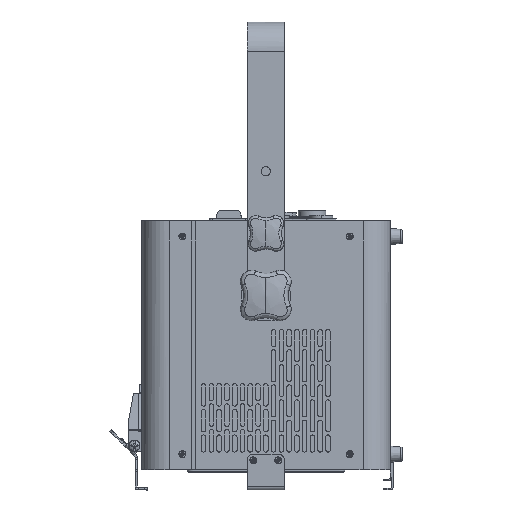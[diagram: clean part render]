
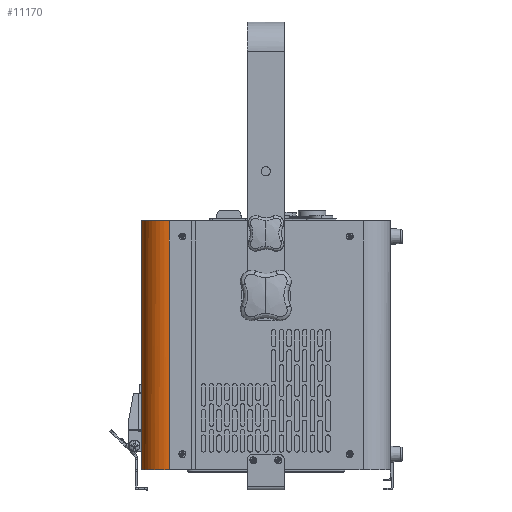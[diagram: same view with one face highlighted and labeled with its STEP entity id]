
A CAD part, left-side view. The second image highlights one B-rep face of the part: STEP entity #11170.
In plain terms, the highlighted cylindrical face has radius 27.686 mm (diameter 55.372 mm), a partial arc.
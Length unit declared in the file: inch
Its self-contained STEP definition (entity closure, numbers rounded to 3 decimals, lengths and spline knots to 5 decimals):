
#818 = CYLINDRICAL_SURFACE ( 'NONE', #37319, 1.09 ) ;
#6922 = CARTESIAN_POINT ( 'NONE',  ( -4.73119, 9.6103, 0. ) ) ;
#7500 = VERTEX_POINT ( 'NONE', #65482 ) ;
#7885 = CARTESIAN_POINT ( 'NONE',  ( -4.45625, 9.83594, 0. ) ) ;
#8960 = VERTEX_POINT ( 'NONE', #176635 ) ;
#9398 = DIRECTION ( 'NONE',  ( -1., 0., 0. ) ) ;
#10799 = CARTESIAN_POINT ( 'NONE',  ( -4.96514, 9.17262, 0. ) ) ;
#11170 = ADVANCED_FACE ( 'NONE', ( #137180 ), #818, .T. ) ;
#12135 = EDGE_CURVE ( 'NONE', #149869, #184928, #79607, .T. ) ;
#20670 = CARTESIAN_POINT ( 'NONE',  ( -4.6303, 9.71119, 10. ) ) ;
#22796 = CARTESIAN_POINT ( 'NONE',  ( -4.77667, 9.55489, 0. ) ) ;
#26512 = CARTESIAN_POINT ( 'NONE',  ( -3.91, 9.98, 10. ) ) ;
#29857 = CARTESIAN_POINT ( 'NONE',  ( -5., 8.89, 6.66667 ) ) ;
#37319 = AXIS2_PLACEMENT_3D ( 'NONE', #61516, #85025, #9398 ) ;
#49512 = CARTESIAN_POINT ( 'NONE',  ( -5., 8.89, 10. ) ) ;
#53463 = CARTESIAN_POINT ( 'NONE',  ( -3.91, 9.98, 10. ) ) ;
#54590 = CARTESIAN_POINT ( 'NONE',  ( -4.85594, 9.43625, 0. ) ) ;
#61516 = CARTESIAN_POINT ( 'NONE',  ( -3.91, 8.89, 0. ) ) ;
#65482 = CARTESIAN_POINT ( 'NONE',  ( -5., 8.89, 10. ) ) ;
#67439 = CARTESIAN_POINT ( 'NONE',  ( -4.26122, 9.92433, 10. ) ) ;
#67621 = CARTESIAN_POINT ( 'NONE',  ( -3.91, 9.98, 0. ) ) ;
#71487 = CARTESIAN_POINT ( 'NONE',  ( -4.99297, 9.03268, 0. ) ) ;
#75631 = CARTESIAN_POINT ( 'NONE',  ( -5., 8.89, 10. ) ) ;
#76496 = CARTESIAN_POINT ( 'NONE',  ( -3.91, 9.98, 6.66667 ) ) ;
#79607 = B_SPLINE_CURVE_WITH_KNOTS ( 'NONE', 3,
 ( #94363, #90436, #76496, #53463 ),
 .UNSPECIFIED., .F., .F.,
 ( 4, 4 ),
 ( 0., 1. ),
 .UNSPECIFIED. ) ;
#81381 = CARTESIAN_POINT ( 'NONE',  ( -4.73119, 9.6103, 10. ) ) ;
#82525 = CARTESIAN_POINT ( 'NONE',  ( -3.98134, 9.98, 0. ) ) ;
#85025 = DIRECTION ( 'NONE',  ( 0., 0., -1. ) ) ;
#85454 = CARTESIAN_POINT ( 'NONE',  ( -4.39303, 9.86973, 0. ) ) ;
#86438 = CARTESIAN_POINT ( 'NONE',  ( -4.94433, 9.24122, 0. ) ) ;
#86983 = EDGE_CURVE ( 'NONE', #8960, #7500, #176835, .T. ) ;
#90436 = CARTESIAN_POINT ( 'NONE',  ( -3.91, 9.98, 3.33333 ) ) ;
#93578 = B_SPLINE_CURVE_WITH_KNOTS ( 'NONE', 3,
 ( #49512, #170963, #95325, #154084, #171949, #96313, #157030, #97286, #81381, #20670, #142097, #127165, #158007, #67439, #128135, #188828, #117073, #26512 ),
 .UNSPECIFIED., .F., .F.,
 ( 4, 2, 2, 2, 2, 2, 2, 2, 4 ),
 ( 0., 0.125, 0.25, 0.375, 0.5, 0.625, 0.75, 0.875, 1. ),
 .UNSPECIFIED. ) ;
#94363 = CARTESIAN_POINT ( 'NONE',  ( -3.91, 9.98, 0. ) ) ;
#95325 = CARTESIAN_POINT ( 'NONE',  ( -4.99297, 9.03268, 10. ) ) ;
#96313 = CARTESIAN_POINT ( 'NONE',  ( -4.88973, 9.37303, 10. ) ) ;
#97286 = CARTESIAN_POINT ( 'NONE',  ( -4.77667, 9.55489, 10. ) ) ;
#104602 = B_SPLINE_CURVE_WITH_KNOTS ( 'NONE', 3,
 ( #67621, #82525, #131218, #189003, #145186, #85454, #7885, #113333, #191910, #6922, #22796, #54590, #162063, #86438, #10799, #71487, #132181, #177964 ),
 .UNSPECIFIED., .F., .F.,
 ( 4, 2, 2, 2, 2, 2, 2, 2, 4 ),
 ( 0., 0.125, 0.25, 0.375, 0.5, 0.625, 0.75, 0.875, 1. ),
 .UNSPECIFIED. ) ;
#113333 = CARTESIAN_POINT ( 'NONE',  ( -4.57489, 9.75667, 0. ) ) ;
#117073 = CARTESIAN_POINT ( 'NONE',  ( -3.98134, 9.98, 10. ) ) ;
#127165 = CARTESIAN_POINT ( 'NONE',  ( -4.45625, 9.83594, 10. ) ) ;
#128135 = CARTESIAN_POINT ( 'NONE',  ( -4.19262, 9.94514, 10. ) ) ;
#130134 = ORIENTED_EDGE ( 'NONE', *, *, #86983, .T. ) ;
#131218 = CARTESIAN_POINT ( 'NONE',  ( -4.05268, 9.97297, 0. ) ) ;
#132181 = CARTESIAN_POINT ( 'NONE',  ( -5., 8.96134, 0. ) ) ;
#136348 = EDGE_CURVE ( 'NONE', #7500, #184928, #93578, .T. ) ;
#137180 = FACE_OUTER_BOUND ( 'NONE', #174440, .T. ) ;
#137493 = ORIENTED_EDGE ( 'NONE', *, *, #188415, .T. ) ;
#141198 = CARTESIAN_POINT ( 'NONE',  ( -3.91, 9.98, 10. ) ) ;
#142097 = CARTESIAN_POINT ( 'NONE',  ( -4.57489, 9.75667, 10. ) ) ;
#145039 = ORIENTED_EDGE ( 'NONE', *, *, #136348, .T. ) ;
#145186 = CARTESIAN_POINT ( 'NONE',  ( -4.26122, 9.92433, 0. ) ) ;
#149869 = VERTEX_POINT ( 'NONE', #155536 ) ;
#154084 = CARTESIAN_POINT ( 'NONE',  ( -4.96514, 9.17262, 10. ) ) ;
#155536 = CARTESIAN_POINT ( 'NONE',  ( -3.91, 9.98, 0. ) ) ;
#157030 = CARTESIAN_POINT ( 'NONE',  ( -4.85594, 9.43625, 10. ) ) ;
#158007 = CARTESIAN_POINT ( 'NONE',  ( -4.39303, 9.86973, 10. ) ) ;
#162063 = CARTESIAN_POINT ( 'NONE',  ( -4.88973, 9.37303, 0. ) ) ;
#163477 = CARTESIAN_POINT ( 'NONE',  ( -5., 8.89, 0. ) ) ;
#170963 = CARTESIAN_POINT ( 'NONE',  ( -5., 8.96134, 10. ) ) ;
#171949 = CARTESIAN_POINT ( 'NONE',  ( -4.94433, 9.24122, 10. ) ) ;
#174440 = EDGE_LOOP ( 'NONE', ( #130134, #145039, #183228, #137493 ) ) ;
#176635 = CARTESIAN_POINT ( 'NONE',  ( -5., 8.89, 0. ) ) ;
#176835 = B_SPLINE_CURVE_WITH_KNOTS ( 'NONE', 3,
 ( #163477, #183087, #29857, #75631 ),
 .UNSPECIFIED., .F., .F.,
 ( 4, 4 ),
 ( 0., 1. ),
 .UNSPECIFIED. ) ;
#177964 = CARTESIAN_POINT ( 'NONE',  ( -5., 8.89, 0. ) ) ;
#183087 = CARTESIAN_POINT ( 'NONE',  ( -5., 8.89, 3.33333 ) ) ;
#183228 = ORIENTED_EDGE ( 'NONE', *, *, #12135, .F. ) ;
#184928 = VERTEX_POINT ( 'NONE', #141198 ) ;
#188415 = EDGE_CURVE ( 'NONE', #149869, #8960, #104602, .T. ) ;
#188828 = CARTESIAN_POINT ( 'NONE',  ( -4.05268, 9.97297, 10. ) ) ;
#189003 = CARTESIAN_POINT ( 'NONE',  ( -4.19262, 9.94514, 0. ) ) ;
#191910 = CARTESIAN_POINT ( 'NONE',  ( -4.6303, 9.71119, 0. ) ) ;
